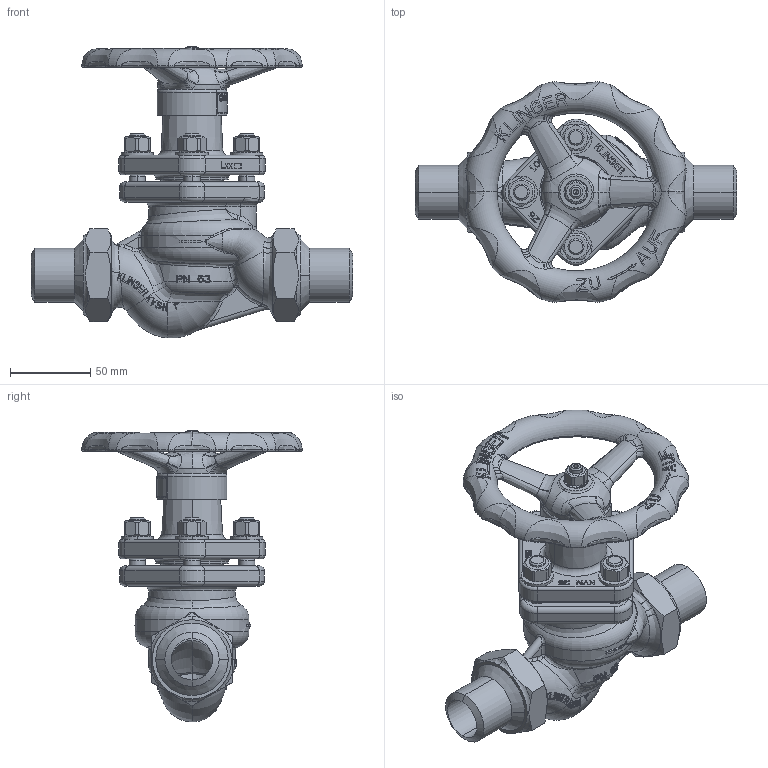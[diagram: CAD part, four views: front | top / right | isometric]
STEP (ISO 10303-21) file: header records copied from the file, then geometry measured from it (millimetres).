
FILE_DESCRIPTION((''),'2;1');
FILE_NAME('KVSN-025S-----P063PGG_SW0001','2015-07-09T',('jeitlers'),('RAND'),'PRO/ENGINEER BY PARAMETRIC TECHNOLOGY CORPORATION, 2013410','PRO/ENGINEER BY PARAMETRIC TECHNOLOGY CORPORATION, 2013410','');
FILE_SCHEMA(('CONFIG_CONTROL_DESIGN'));
Length unit declared in the file: millimetre
Products named in the file (1): KVSN-025S-----P063PGG_SW0001
Bounding box: 200 x 137.21 x 181.5 mm (x, y, z)
Volume: 472581.6 mm3; surface area: 148672.2 mm2
Topology: 2 solids, 2 shells, 2745 faces, 7452 edges, 4771 vertices
Faces by surface type: plane 1642, bspline 474, cylinder 332, torus 152, cone 120, extrusion 19, sphere 6
Entity records: 168180 total; most frequent: CARTESIAN_POINT 105118, ORIENTED_EDGE 14900, DIRECTION 10492, EDGE_CURVE 7450, VERTEX_POINT 4771, AXIS2_PLACEMENT_3D 3547, VECTOR 3398, LINE 3379
